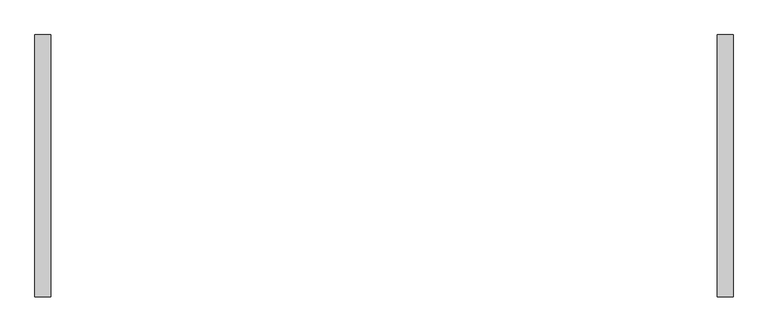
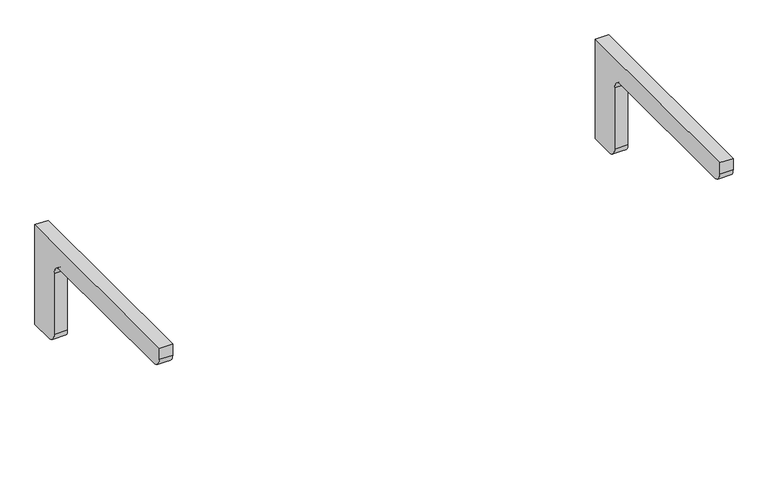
"""IFC4 building model written with IfcOpenShell, lengths in millimetres: furniture geometry."""

import ifcopenshell
import ifcopenshell.guid

model = None  # the IFC model being written
_history = None  # IfcOwnerHistory: only IFC2X3 demands one
_inside = {}  # id of a spatial element -> (the spatial element, [elements in it])
_under = {}  # id of a project, library or spatial element -> (it, [spatial elements below it])
_declared = {}  # id of a project -> (the project, [libraries it declares])
_typed = {}  # id of a type object -> (the type object, [elements of that type])
_made_of = {}  # id of a material, layer set ... -> (it, [elements and type objects made of it])


def new_model(schema):
    """Start an empty IFC model of exactly this schema.

    Asked for "IFC4X3", IfcOpenShell would pick the latest addendum, in which some entities
    have other attributes; the version numbers below select the first issue.
    IFC2X3 requires an IfcOwnerHistory on every rooted entity: one is made here for all.
    """
    global model, _history
    if schema == "IFC4X3":
        model = ifcopenshell.file(schema_version=(4, 3, 0, 0))
    else:
        model = ifcopenshell.file(schema=schema)
    _inside.clear()
    _under.clear()
    _declared.clear()
    _typed.clear()
    _made_of.clear()
    _history = None
    if model.schema == "IFC2X3":
        org = make("IfcOrganization", Name="unknown")
        user = make(
            "IfcPersonAndOrganization",
            ThePerson=make("IfcPerson", FamilyName="unknown"),
            TheOrganization=org,
        )
        app = make(
            "IfcApplication",
            ApplicationDeveloper=org,
            Version="unknown",
            ApplicationFullName="unknown",
            ApplicationIdentifier="unknown",
        )
        _history = make(
            "IfcOwnerHistory",
            OwningUser=user,
            OwningApplication=app,
            ChangeAction="ADDED",
            CreationDate=0,
        )
    return model


def make(cls, **values):
    """One entity of the class cls with the attributes given. An attribute that is None is left unset."""
    return model.create_entity(
        cls, **{name: value for name, value in values.items() if value is not None}
    )


def rooted(cls, **values):
    """An entity with a GlobalId (a new one), such as an element, a storey or a relation."""
    return make(cls, GlobalId=ifcopenshell.guid.new(), OwnerHistory=_history, **values)


def si_unit(unit_type, name, prefix=None):
    """IfcSIUnit, for example si_unit("LENGTHUNIT", "METRE", prefix="MILLI")."""
    return make("IfcSIUnit", UnitType=unit_type, Prefix=prefix, Name=name)


def assignment(units):
    """IfcUnitAssignment: the units of a project."""
    return None if units is None else make("IfcUnitAssignment", Units=units)


def point(xyz):
    """IfcCartesianPoint."""
    return None if xyz is None else make("IfcCartesianPoint", Coordinates=xyz)


def direction(xyz):
    """IfcDirection."""
    return None if xyz is None else make("IfcDirection", DirectionRatios=xyz)


def frame(location, z_axis=None, x_axis=None):
    """IfcAxis2Placement3D, a coordinate frame: its origin and axes. An axis left out is left unset."""
    return make(
        "IfcAxis2Placement3D",
        Location=point(location),
        Axis=direction(z_axis),
        RefDirection=direction(x_axis),
    )


def frame_2d(location, x_axis=None):
    """IfcAxis2Placement2D, a coordinate frame in the plane: its origin and x axis."""
    return make(
        "IfcAxis2Placement2D", Location=point(location), RefDirection=direction(x_axis)
    )


def origin():
    """The frame at (0, 0, 0) with its axes left unset."""
    return frame((0.0, 0.0, 0.0))


def place(relative_to, where):
    """IfcLocalPlacement: puts the frame where relative to a parent placement (None: the world)."""
    return make(
        "IfcLocalPlacement", PlacementRelTo=relative_to, RelativePlacement=where
    )


def context(
    kind, dimensions, precision=None, world=None, true_north=None, identifier=None
):
    """IfcGeometricRepresentationContext, for example the 3D "Model" context."""
    return make(
        "IfcGeometricRepresentationContext",
        ContextIdentifier=identifier,
        ContextType=kind,
        CoordinateSpaceDimension=dimensions,
        Precision=precision,
        WorldCoordinateSystem=world,
        TrueNorth=true_north,
    )


def project(units=None, contexts=None):
    """IfcProject with its units and contexts."""
    return rooted(
        "IfcProject",
        Name="project",
        RepresentationContexts=contexts,
        UnitsInContext=assignment(units),
    )


def spatial(cls, under=None, at=None, **own):
    """A site, building, storey or space (cls), placed at a placement, below another one or the project."""
    s = rooted(cls, ObjectPlacement=at, **own)
    if under is not None:
        _under.setdefault(under.id(), (under, []))[1].append(s)
    return s


def polyline(points):
    """IfcPolyline through the points."""
    return make("IfcPolyline", Points=[point(p) for p in points])


def circle_curve(where, radius):
    """IfcCircle in the frame where."""
    return make("IfcCircle", Position=where, Radius=radius)


def trimmed(basis, trim1, trim2, sense, master):
    """IfcTrimmedCurve: the piece of a basis curve between two trims."""
    return make(
        "IfcTrimmedCurve",
        BasisCurve=basis,
        Trim1=trim1,
        Trim2=trim2,
        SenseAgreement=sense,
        MasterRepresentation=master,
    )


def segment(curve, same_sense, transition):
    """IfcCompositeCurveSegment."""
    return make(
        "IfcCompositeCurveSegment",
        Transition=transition,
        SameSense=same_sense,
        ParentCurve=curve,
    )


def composite_curve(segments, self_intersect=None):
    """IfcCompositeCurve: segments joined end to end."""
    return make("IfcCompositeCurve", Segments=segments, SelfIntersect=self_intersect)


def outline(outer, holes=None, kind="AREA"):
    """IfcArbitraryClosedProfileDef: a profile drawn as a closed curve; with holes, ...WithVoids."""
    if holes is None:
        return make("IfcArbitraryClosedProfileDef", ProfileType=kind, OuterCurve=outer)
    return make(
        "IfcArbitraryProfileDefWithVoids",
        ProfileType=kind,
        OuterCurve=outer,
        InnerCurves=holes,
    )


def extrude(swept, where, along, depth):
    """IfcExtrudedAreaSolid: the profile swept, set in the frame where, extruded along a direction by depth."""
    return make(
        "IfcExtrudedAreaSolid",
        SweptArea=swept,
        Position=where,
        ExtrudedDirection=direction(along),
        Depth=depth,
    )


def shape(context_of_items, identifier, shape_type, items):
    """IfcShapeRepresentation: the items that make up one representation, for example the "Body"."""
    return make(
        "IfcShapeRepresentation",
        ContextOfItems=context_of_items,
        RepresentationIdentifier=identifier,
        RepresentationType=shape_type,
        Items=items,
    )


def source(mapping_origin, context_of_items, identifier, shape_type, items):
    """IfcRepresentationMap: a shape defined once, which mapped items show again and again."""
    return make(
        "IfcRepresentationMap",
        MappingOrigin=mapping_origin,
        MappedRepresentation=shape(context_of_items, identifier, shape_type, items),
    )


def transform(
    local_origin,
    x_axis=None,
    y_axis=None,
    z_axis=None,
    scale=None,
    scale2=None,
    scale3=None,
    uniform=True,
):
    """IfcCartesianTransformationOperator3D, or its non-uniform kind. x_axis, y_axis, z_axis: its Axis1, 2, 3."""
    if uniform:
        return make(
            "IfcCartesianTransformationOperator3D",
            Axis1=direction(x_axis),
            Axis2=direction(y_axis),
            LocalOrigin=point(local_origin),
            Scale=scale,
            Axis3=direction(z_axis),
        )
    return make(
        "IfcCartesianTransformationOperator3DnonUniform",
        Axis1=direction(x_axis),
        Axis2=direction(y_axis),
        LocalOrigin=point(local_origin),
        Scale=scale,
        Axis3=direction(z_axis),
        Scale2=scale2,
        Scale3=scale3,
    )


def mapped(mapping_source, mapping_target):
    """IfcMappedItem: shows the shape of a source again, moved by a transform."""
    return make(
        "IfcMappedItem", MappingSource=mapping_source, MappingTarget=mapping_target
    )


def made_of(thing, what):
    """Note that an element or type object is made of a material, layer set ...; save() writes the relation."""
    if what is not None:
        _made_of.setdefault(what.id(), (what, []))[1].append(thing)
    return thing


def element(
    cls,
    number,
    at=None,
    inside=None,
    cuts=None,
    type_object=None,
    material=None,
    context=None,
    identifier="Body",
    shape_type=None,
    held_by="IfcProductDefinitionShape",
    body=None,
    shapes=None,
    **own,
):
    """One element of the class cls, such as IfcWall. Its Tag is "e" and its number.

    at: its placement. inside: the storey or other place that contains it. cuts: it is an
    opening in that element (IfcRelVoidsElement). A single representation is given by context,
    identifier, shape_type and body (its items); several are given by shapes. held_by: the class
    of the entity that holds the representations. save() writes the other relations.
    """
    e = rooted(cls, Tag="e%d" % number, ObjectPlacement=at, **own)
    if body is not None:
        shapes = [shape(context, identifier, shape_type, body)]
    if shapes is not None:
        e.Representation = make(held_by, Representations=shapes)
    if inside is not None:
        _inside.setdefault(inside.id(), (inside, []))[1].append(e)
    if cuts is not None:
        rooted(
            "IfcRelVoidsElement", RelatingBuildingElement=cuts, RelatedOpeningElement=e
        )
    if type_object is not None:
        _typed.setdefault(type_object.id(), (type_object, []))[1].append(e)
    return made_of(e, material)


def aggregate(whole, parts):
    """IfcRelAggregates: a whole, such as a stair, and the parts it consists of."""
    return rooted("IfcRelAggregates", RelatingObject=whole, RelatedObjects=parts)


def save(model, path):
    """Write the relations noted so far, then the file.

    IfcRelAggregates (storeys below a building ...), IfcRelContainedInSpatialStructure (elements
    in a storey), IfcRelDefinesByType, IfcRelAssociatesMaterial and IfcRelDeclares: one each for
    every whole, place, type object, material and project.
    """
    for whole, parts in _under.values():
        aggregate(whole, parts)
    for where, things in _inside.values():
        rooted(
            "IfcRelContainedInSpatialStructure",
            RelatedElements=things,
            RelatingStructure=where,
        )
    for kind, things in _typed.values():
        rooted("IfcRelDefinesByType", RelatedObjects=things, RelatingType=kind)
    for what, things in _made_of.values():
        rooted("IfcRelAssociatesMaterial", RelatedObjects=things, RelatingMaterial=what)
    for by, libraries in _declared.values():
        rooted("IfcRelDeclares", RelatingContext=by, RelatedDefinitions=libraries)
    model.write(path)


def furniture_d659d24b(model_context):
    return source(origin(), model_context, "Body", "SweptSolid", [
        extrude(outline(composite_curve([segment(polyline([(177.8, 882.65), (177.8, 603.25), (114.3, 603.25)]), True, "CONTINUOUS"), segment(trimmed(circle_curve(frame_2d((114.3, 628.65)), 25.4), [point((114.3, 603.25))], [point((88.9, 628.65))], False, "CARTESIAN"), True, "CONTINUOUS"), segment(polyline([(88.9, 628.65), (88.9, 800.1)]), True, "CONTINUOUS"), segment(trimmed(circle_curve(frame_2d((63.5, 800.1)), 25.4), [point((88.9, 800.1))], [point((63.5, 825.5))], True, "CARTESIAN"), True, "CONTINUOUS"), segment(polyline([(63.5, 825.5), (-368.3, 825.5)]), True, "CONTINUOUS"), segment(trimmed(circle_curve(frame_2d((-368.3, 850.9)), 25.4), [point((-368.3, 825.5))], [point((-393.7, 850.9))], False, "CARTESIAN"), True, "CONTINUOUS"), segment(polyline([(-393.7, 850.9), (-393.7, 882.65), (177.8, 882.65)]), True, "CONTINUOUS")], self_intersect=False)), frame((725.4875, 0.0, 0.0), z_axis=(1.0, 0.0, 0.0), x_axis=(0.0, 1.0, 0.0)), (0.0, 0.0, 1.0), 34.925),
        extrude(outline(composite_curve([segment(polyline([(-393.7, 850.9), (-393.7, 882.65), (177.8, 882.65), (177.8, 603.25), (114.3, 603.25)]), True, "CONTINUOUS"), segment(trimmed(circle_curve(frame_2d((114.3, 628.65)), 25.4), [point((114.3, 603.25))], [point((88.9, 628.65))], False, "CARTESIAN"), True, "CONTINUOUS"), segment(polyline([(88.9, 628.65), (88.9, 800.1)]), True, "CONTINUOUS"), segment(trimmed(circle_curve(frame_2d((63.5, 800.1)), 25.4), [point((88.9, 800.1))], [point((63.5, 825.5))], True, "CARTESIAN"), True, "CONTINUOUS"), segment(polyline([(63.5, 825.5), (-368.3, 825.5)]), True, "CONTINUOUS"), segment(trimmed(circle_curve(frame_2d((-368.3, 850.9)), 25.4), [point((-368.3, 825.5))], [point((-393.7, 850.9))], False, "CARTESIAN"), True, "CONTINUOUS")], self_intersect=False)), frame((-760.4125, 0.0, 0.0), z_axis=(1.0, 0.0, 0.0), x_axis=(0.0, 1.0, 0.0)), (0.0, 0.0, 1.0), 34.925),
    ])


if __name__ == "__main__":
    model = new_model("IFC4")
    model_context = context("Model", 3, world=origin())
    ifc_project = project(units=[si_unit("LENGTHUNIT", "METRE", prefix="MILLI")], contexts=[model_context])
    site = spatial("IfcSite", under=ifc_project)
    building = spatial("IfcBuilding", under=site)
    placement = place(None, origin())
    furniture_shape = furniture_d659d24b(model_context)
    element("IfcFurniture", 1, ObjectType="HermanMiller_CoStruc_C2140H_WorkSurfaceSupport_Heavy Duty : 11\"H x 24\"D x 60\"W", at=placement, inside=building, context=model_context, shape_type="MappedRepresentation", body=[
        mapped(furniture_shape, transform((0.0, 0.0, 0.0), x_axis=(1.0, 0.0, 0.0), y_axis=(0.0, 1.0, 0.0), z_axis=(0.0, 0.0, 1.0))),
    ])
    save(model, "model.ifc")
